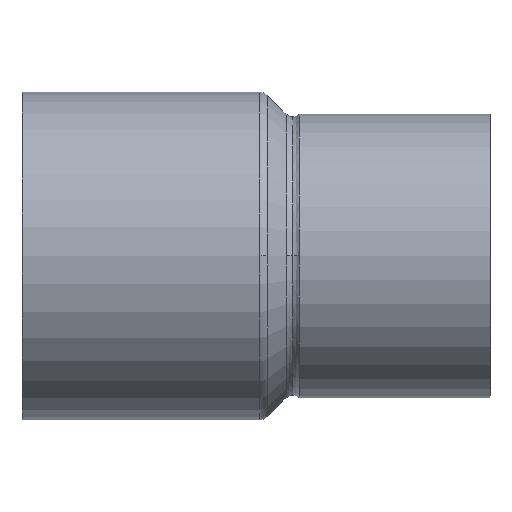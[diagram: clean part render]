
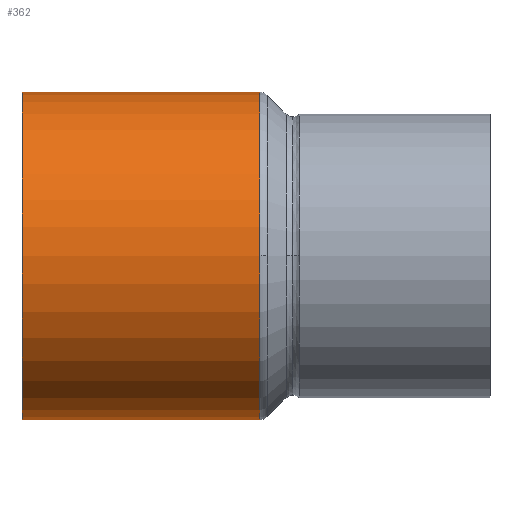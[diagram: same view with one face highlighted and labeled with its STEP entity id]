
A CAD part, top view. The second image highlights one B-rep face of the part: STEP entity #362.
In plain terms, the highlighted cylindrical face has radius 17.5 mm (diameter 35 mm), a partial arc.
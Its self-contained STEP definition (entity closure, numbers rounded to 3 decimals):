
#312=CARTESIAN_POINT('',(12.707,0.0,0.0));
#313=DIRECTION('',(1.0,0.0,0.0));
#314=DIRECTION('',(0.0,1.0,0.0));
#315=AXIS2_PLACEMENT_3D('',#312,#313,#314);
#316=CYLINDRICAL_SURFACE('',#315,17.5);
#317=CARTESIAN_POINT('',(0.,17.5,0.0));
#318=VERTEX_POINT('',#317);
#319=CARTESIAN_POINT('',(25.413,17.5,0.0));
#320=VERTEX_POINT('',#319);
#321=CARTESIAN_POINT('',(0.,17.5,0.0));
#322=DIRECTION('',(1.0,0.0,0.0));
#323=VECTOR('',#322,25.413);
#324=LINE('',#321,#323);
#325=EDGE_CURVE('',#318,#320,#324,.T.);
#326=ORIENTED_EDGE('',*,*,#325,.F.);
#327=CARTESIAN_POINT('',(0.,-17.5,0.));
#328=VERTEX_POINT('',#327);
#329=CARTESIAN_POINT('',(0.,0.0,0.0));
#330=DIRECTION('',(1.0,0.0,0.0));
#331=DIRECTION('',(0.0,1.0,0.0));
#332=AXIS2_PLACEMENT_3D('',#329,#330,#331);
#333=CIRCLE('',#332,17.5);
#334=EDGE_CURVE('',#318,#328,#333,.T.);
#335=ORIENTED_EDGE('',*,*,#334,.T.);
#336=CARTESIAN_POINT('',(25.413,-17.5,0.));
#337=VERTEX_POINT('',#336);
#338=CARTESIAN_POINT('',(25.413,-17.5,0.));
#339=DIRECTION('',(-1.0,0.0,0.0));
#340=VECTOR('',#339,25.413);
#341=LINE('',#338,#340);
#342=EDGE_CURVE('',#337,#328,#341,.T.);
#343=ORIENTED_EDGE('',*,*,#342,.F.);
#344=CARTESIAN_POINT('',(25.413,0.,17.5));
#345=VERTEX_POINT('',#344);
#346=CARTESIAN_POINT('',(25.413,0.0,0.0));
#347=DIRECTION('',(1.0,0.0,0.0));
#348=DIRECTION('',(0.0,1.0,0.0));
#349=AXIS2_PLACEMENT_3D('',#346,#347,#348);
#350=CIRCLE('',#349,17.5);
#351=EDGE_CURVE('',#345,#337,#350,.T.);
#352=ORIENTED_EDGE('',*,*,#351,.F.);
#353=CARTESIAN_POINT('',(25.413,0.0,0.0));
#354=DIRECTION('',(1.0,0.0,0.0));
#355=DIRECTION('',(0.0,1.0,0.0));
#356=AXIS2_PLACEMENT_3D('',#353,#354,#355);
#357=CIRCLE('',#356,17.5);
#358=EDGE_CURVE('',#320,#345,#357,.T.);
#359=ORIENTED_EDGE('',*,*,#358,.F.);
#360=EDGE_LOOP('',(#326,#335,#343,#352,#359));
#361=FACE_OUTER_BOUND('',#360,.T.);
#362=ADVANCED_FACE('',(#361),#316,.T.);
